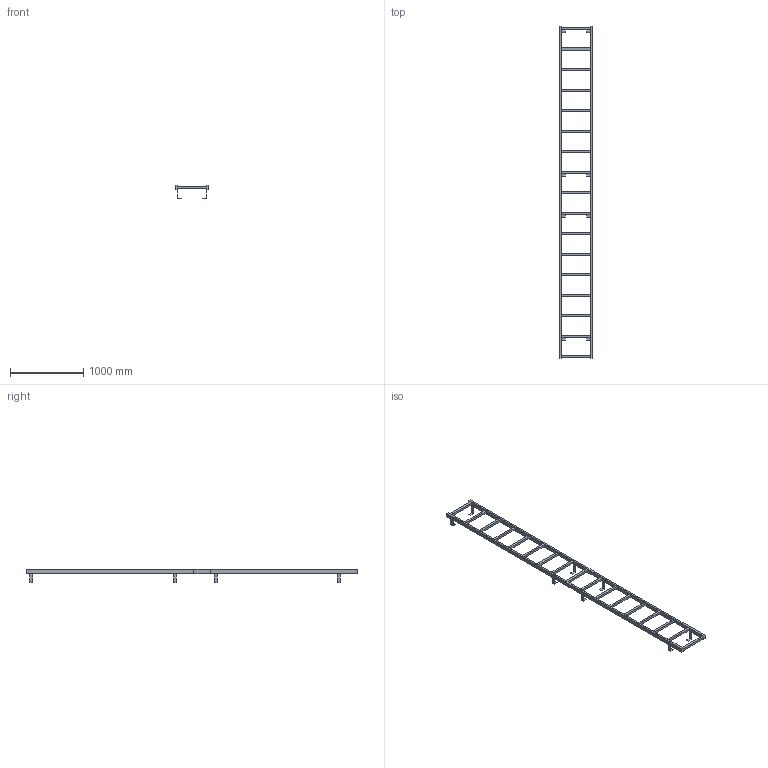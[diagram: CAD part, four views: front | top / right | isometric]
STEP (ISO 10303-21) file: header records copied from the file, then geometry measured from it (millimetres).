
FILE_DESCRIPTION((''),'2;1');
FILE_NAME('52311142','2024-10-17T13:34:13',('wep'),('HUBER SE'),'CREO PARAMETRIC BY PTC INC, 2022162','CREO PARAMETRIC BY PTC INC, 2022162','');
FILE_SCHEMA(('AUTOMOTIVE_DESIGN { 1 0 10303 214 1 1 1 1 }'));
Length unit declared in the file: millimetre
Products named in the file (1): 52311142
Bounding box: 450 x 4530 x 178.5 mm (x, y, z)
Volume: 19159850 mm3; surface area: 2407250.4 mm2
Topology: 4 solids, 4 shells, 164 faces, 468 edges, 304 vertices
Faces by surface type: plane 164
Entity records: 5823 total; most frequent: CARTESIAN_POINT 938, ORIENTED_EDGE 936, DIRECTION 796, VECTOR 468, LINE 468, EDGE_CURVE 468, VERTEX_POINT 304, EDGE_LOOP 186
